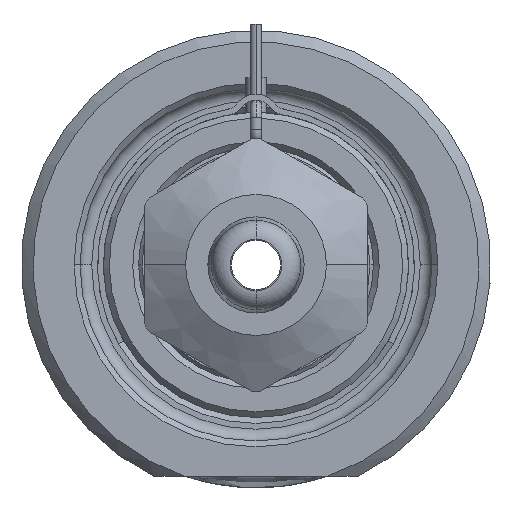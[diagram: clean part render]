
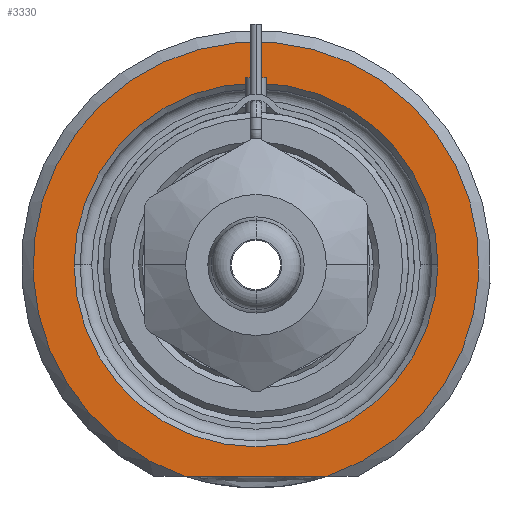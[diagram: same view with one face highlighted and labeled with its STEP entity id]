
A CAD part, front view. The second image highlights one B-rep face of the part: STEP entity #3330.
In plain terms, the highlighted planar face has unit normal (0, -1, 0).
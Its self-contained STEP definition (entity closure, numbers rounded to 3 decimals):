
#1=DIRECTION('',(1.,0.,0.));
#2=VECTOR('',#1,12.166);
#3=CARTESIAN_POINT('',(-6.083,0.,-18.));
#4=LINE('',#3,#2);
#5=CARTESIAN_POINT('',(0.,0.,0.));
#6=DIRECTION('',(0.,1.,0.));
#7=DIRECTION('',(-1.,0.,0.));
#8=AXIS2_PLACEMENT_3D('',#5,#6,#7);
#10=CARTESIAN_POINT('',(0.,0.,0.));
#11=DIRECTION('',(0.,1.,0.));
#12=DIRECTION('',(1.,0.,0.));
#13=AXIS2_PLACEMENT_3D('',#10,#11,#12);
#264=CARTESIAN_POINT('',(0.,0.,0.));
#265=DIRECTION('',(0.,-1.,0.));
#266=DIRECTION('',(0.32,0.,-0.947));
#267=AXIS2_PLACEMENT_3D('',#264,#265,#266);
#2786=CARTESIAN_POINT('',(-15.5,0.,0.));
#2787=CARTESIAN_POINT('',(15.5,0.,0.));
#2788=VERTEX_POINT('',#2786);
#2789=VERTEX_POINT('',#2787);
#2844=CARTESIAN_POINT('',(-6.083,0.,-18.));
#2845=CARTESIAN_POINT('',(6.083,0.,-18.));
#2846=VERTEX_POINT('',#2844);
#2847=VERTEX_POINT('',#2845);
#3313=CARTESIAN_POINT('',(0.,0.,0.));
#3314=DIRECTION('',(0.,-1.,0.));
#3315=DIRECTION('',(1.,0.,0.));
#3316=AXIS2_PLACEMENT_3D('',#3313,#3314,#3315);
#3317=PLANE('',#3316);
#3319=ORIENTED_EDGE('',*,*,#3318,.F.);
#3321=ORIENTED_EDGE('',*,*,#3320,.F.);
#3322=EDGE_LOOP('',(#3319,#3321));
#3323=FACE_OUTER_BOUND('',#3322,.F.);
#3325=ORIENTED_EDGE('',*,*,#3324,.F.);
#3327=ORIENTED_EDGE('',*,*,#3326,.F.);
#3328=EDGE_LOOP('',(#3325,#3327));
#3329=FACE_BOUND('',#3328,.F.);
#3330=ADVANCED_FACE('',(#3323,#3329),#3317,.T.);
#9=CIRCLE('',#8,15.5);
#14=CIRCLE('',#13,15.5);
#268=CIRCLE('',#267,19.);
#3318=EDGE_CURVE('',#2846,#2847,#4,.T.);
#3320=EDGE_CURVE('',#2847,#2846,#268,.T.);
#3324=EDGE_CURVE('',#2788,#2789,#9,.T.);
#3326=EDGE_CURVE('',#2789,#2788,#14,.T.);
